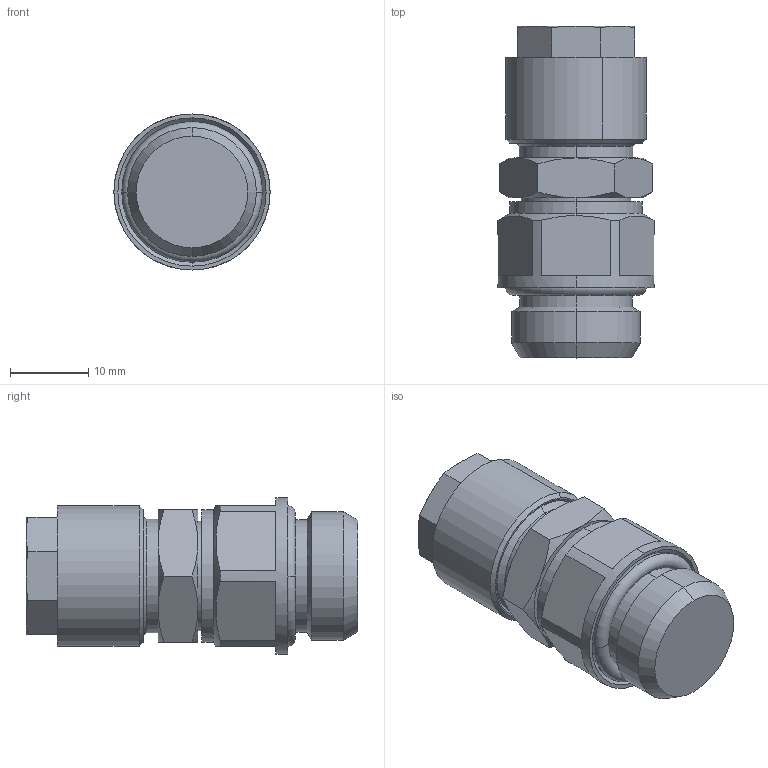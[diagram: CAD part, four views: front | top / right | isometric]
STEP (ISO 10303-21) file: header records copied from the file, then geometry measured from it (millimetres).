
FILE_DESCRIPTION (( 'STEP AP214' ), '1' );
FILE_NAME ('0101500007.step', '2012-09-28T13:17:51', ( '' ), ( '' ), 'SwSTEP 2.0', 'SolidWorks 2012', '' );
FILE_SCHEMA (( 'AUTOMOTIVE_DESIGN' ));
Length unit declared in the file: millimetre
Products named in the file (1): 0101500007
Bounding box: 20 x 42.5 x 20 mm (x, y, z)
Volume: 9909.8 mm3; surface area: 3790.4 mm2
Topology: 2 solids, 2 shells, 106 faces, 244 edges, 146 vertices
Faces by surface type: cone 39, plane 35, cylinder 20, torus 12
Entity records: 3934 total; most frequent: CARTESIAN_POINT 735, DIRECTION 523, ORIENTED_EDGE 484, EDGE_CURVE 242, AXIS2_PLACEMENT_3D 222, VERTEX_POINT 146, CIRCLE 115, EDGE_LOOP 114
